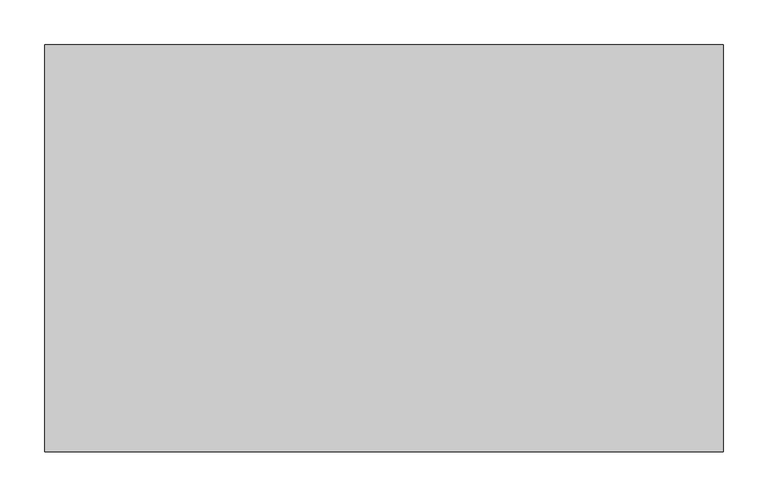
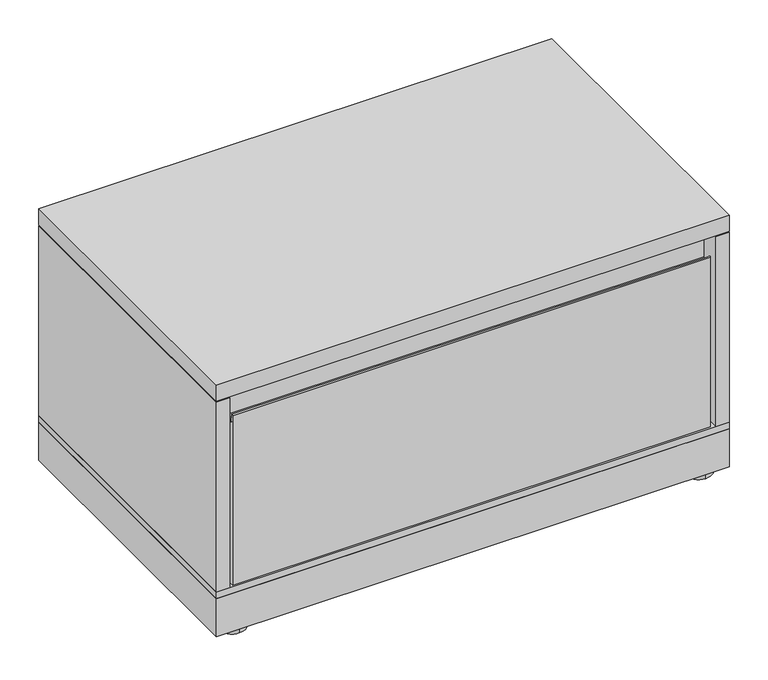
"""IFC4 building model written with IfcOpenShell, lengths in millimetres: furniture geometry, Steelcase - Universal Storage - Lateral File - 1 High - Flush Steel : Drawer - 18D x 30W."""

from ifc_helpers import new_model, si_unit, point, frame, frame_2d, origin, origin_with_axes, place, context, project, spatial, polyline, circle_curve, trimmed, segment, composite_curve, outline, extrude, source, transform, mapped, element, save


def furniture_9c4b68a6(model_context):
    return source(origin(), model_context, "Body", "SweptSolid", [
        extrude(outline(polyline([(762.0, 457.2), (762.0, 0.0), (0.0, 0.0), (0.0, 457.2), (762.0, 457.2)])), frame((0.0, 0.0, 6.3500002), z_axis=(0.0, 0.0, 1.0), x_axis=(1.0, 0.0, 0.0)), (0.0, 0.0, 1.0), 59.6899998),
        extrude(outline(composite_curve([segment(trimmed(circle_curve(frame_2d((727.3290058, 434.8633666)), 20.32), [point((727.3290058, 414.5433666))], [point((727.3290058, 455.1833666))], False, "CARTESIAN"), True, "CONTINUOUS"), segment(trimmed(circle_curve(frame_2d((727.3290058, 434.8633666)), 20.32), [point((727.3290058, 455.1833666))], [point((727.3290058, 414.5433666))], False, "CARTESIAN"), True, "CONTINUOUS")], self_intersect=False)), origin_with_axes(), (0.0, 0.0, 1.0), 6.3500002),
        extrude(outline(composite_curve([segment(trimmed(circle_curve(frame_2d((727.3290058, 20.7491455)), 20.32), [point((727.3290058, 0.4291455))], [point((727.3290058, 41.0691455))], False, "CARTESIAN"), True, "CONTINUOUS"), segment(trimmed(circle_curve(frame_2d((727.3290058, 20.7491455)), 20.32), [point((727.3290058, 41.0691455))], [point((727.3290058, 0.4291455))], False, "CARTESIAN"), True, "CONTINUOUS")], self_intersect=False)), origin_with_axes(), (0.0, 0.0, 1.0), 6.3500002),
        extrude(outline(composite_curve([segment(trimmed(circle_curve(frame_2d((34.29, 434.8633666)), 20.32), [point((34.29, 455.1833666))], [point((34.29, 414.5433666))], False, "CARTESIAN"), True, "CONTINUOUS"), segment(trimmed(circle_curve(frame_2d((34.29, 434.8633666)), 20.32), [point((34.29, 414.5433666))], [point((34.29, 455.1833666))], False, "CARTESIAN"), True, "CONTINUOUS")], self_intersect=False)), origin_with_axes(), (0.0, 0.0, 1.0), 6.3500002),
        extrude(outline(composite_curve([segment(trimmed(circle_curve(frame_2d((34.29, 20.7491455)), 20.32), [point((34.29, 41.0691455))], [point((34.29, 0.4291455))], False, "CARTESIAN"), True, "CONTINUOUS"), segment(trimmed(circle_curve(frame_2d((34.29, 20.7491455)), 20.32), [point((34.29, 0.4291455))], [point((34.29, 41.0691455))], False, "CARTESIAN"), True, "CONTINUOUS")], self_intersect=False)), origin_with_axes(), (0.0, 0.0, 1.0), 6.3500002),
        extrude(outline(composite_curve([segment(polyline([(25.4254103, 76.2), (3.2004224, 76.2), (3.2004224, 342.8171562)]), True, "CONTINUOUS"), segment(trimmed(circle_curve(frame_2d((4.3477111, 342.8171562)), 1.1472887), [point((3.2004224, 342.8171562))], [point((5.4949998, 342.8171562))], False, "CARTESIAN"), True, "CONTINUOUS"), segment(polyline([(5.4949998, 342.8171562), (6.7505036, 332.5918984)]), True, "CONTINUOUS"), segment(trimmed(circle_curve(frame_2d((10.035785, 332.9952802)), 3.3099532), [point((6.7505036, 332.5918984))], [point((10.035785, 329.685327))], True, "CARTESIAN"), True, "CONTINUOUS"), segment(polyline([(10.035785, 329.685327), (17.8753095, 329.685327)]), True, "CONTINUOUS"), segment(trimmed(circle_curve(frame_2d((17.8753095, 332.8666173)), 3.1812904), [point((17.8753095, 329.685327))], [point((21.0565999, 332.8666173))], True, "CARTESIAN"), True, "CONTINUOUS"), segment(polyline([(21.0565999, 332.8666173), (21.0565999, 373.5831925)]), True, "CONTINUOUS"), segment(trimmed(circle_curve(frame_2d((21.8270776, 373.5831925)), 0.7704777), [point((21.0565999, 373.5831925))], [point((21.5798734, 374.3129363))], False, "CARTESIAN"), True, "CONTINUOUS"), segment(trimmed(circle_curve(frame_2d((22.5148866, 371.5527885)), 2.9142178), [point((21.5798734, 374.3129363))], [point((25.4254103, 371.6994776))], False, "CARTESIAN"), True, "CONTINUOUS"), segment(polyline([(25.4254103, 371.6994776), (25.4254103, 76.2)]), True, "CONTINUOUS")], self_intersect=False)), frame((25.908, 0.0, 0.0), z_axis=(1.0, 0.0, 0.0), x_axis=(0.0, 1.0, 0.0)), (0.0, 0.0, 1.0), 710.184),
        extrude(outline(polyline([(762.0, 0.0), (0.0, 0.0), (0.0, 457.2), (762.0, 457.2), (762.0, 0.0)])), frame((0.0, 0.0, 376.3010136), z_axis=(0.0, 0.0, 1.0), x_axis=(1.0, 0.0, 0.0)), (0.0, 0.0, 1.0), 25.3999758),
        extrude(outline(polyline([(762.0, 0.0), (0.0, 0.0), (0.0, 457.2), (762.0, 457.2), (762.0, 0.0)])), frame((0.0, 0.0, 66.04), z_axis=(0.0, 0.0, 1.0), x_axis=(1.0, 0.0, 0.0)), (0.0, 0.0, 1.0), 10.16),
        extrude(outline(polyline([(0.0, 457.2), (762.0, 457.2), (762.0, 0.0), (742.4419641, 0.0), (742.4419641, 456.438), (19.558, 456.438), (19.558, 0.0), (0.0, 0.0), (0.0, 457.2)])), frame((0.0, 0.0, 76.2), z_axis=(0.0, 0.0, 1.0), x_axis=(1.0, 0.0, 0.0)), (0.0, 0.0, 1.0), 298.577),
    ])


if __name__ == "__main__":
    model = new_model("IFC4")
    model_context = context("Model", 3, world=origin())
    ifc_project = project(units=[si_unit("LENGTHUNIT", "METRE", prefix="MILLI")], contexts=[model_context])
    site = spatial("IfcSite", under=ifc_project)
    building = spatial("IfcBuilding", under=site)
    placement = place(None, origin())
    furniture_shape = furniture_9c4b68a6(model_context)
    element("IfcFurniture", 1, ObjectType="Steelcase - Universal Storage - Lateral File - 1 High - Flush Steel : Drawer - 18D x 30W", at=placement, inside=building, context=model_context, shape_type="MappedRepresentation", body=[
        mapped(furniture_shape, transform((0.0, 0.0, 0.0), x_axis=(1.0, 0.0, 0.0), y_axis=(0.0, 1.0, 0.0), z_axis=(0.0, 0.0, 1.0))),
    ])
    save(model, "model.ifc")
